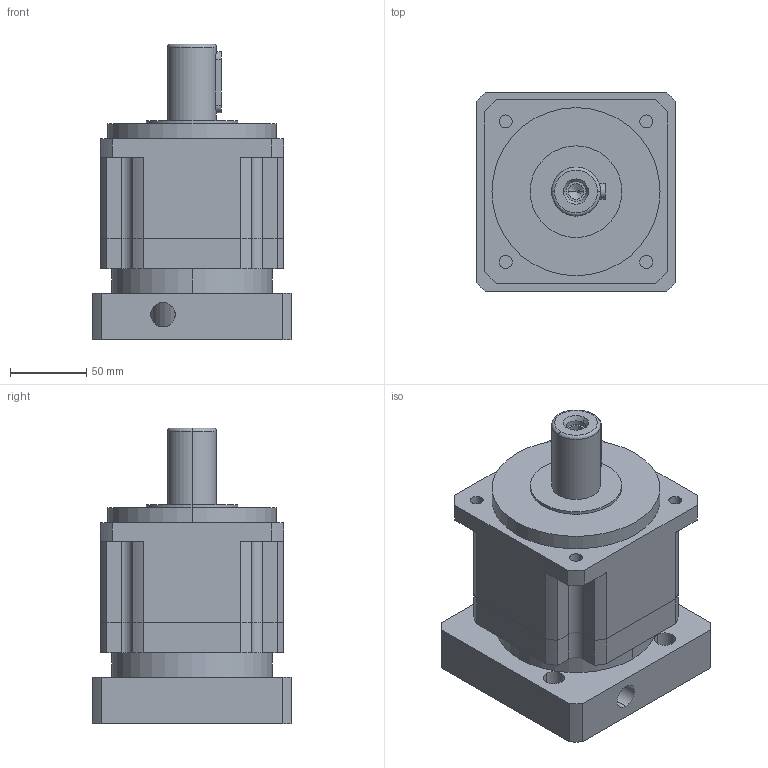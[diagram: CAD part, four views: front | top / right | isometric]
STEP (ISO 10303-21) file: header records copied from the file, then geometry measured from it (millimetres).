
FILE_DESCRIPTION (( 'STEP AP214' ), '1' );
FILE_NAME ('PX120-L1.STEP', '2020-01-06T03:20:04', ( '微软用户' ), ( '微软中国' ), 'SwSTEP 2.0', 'SolidWorks 2014', '' );
FILE_SCHEMA (( 'AUTOMOTIVE_DESIGN' ));
Length unit declared in the file: millimetre
Products named in the file (7): 囀鞠褒蹟佪-M8℅25; PX120-薊粣ん_LZ03; PX120-帣釱; PX120-本体齿圈; 粣創-6009 45x75x16; 邧埴瑩 10x8x40; PX120-L1
Assembly tree (6 placements, depth 2):
  PX120-L1
    PX120-本体齿圈
    PX120-薊粣ん_LZ03
    PX120-帣釱
    囀鞠褒蹟佪-M8℅25
    邧埴瑩 10x8x40
    粣創-6009 45x75x16
Bounding box: 130 x 130 x 193.5 mm (x, y, z)
Volume: 1660989.7 mm3; surface area: 210411.8 mm2
Topology: 6 solids, 6 shells, 450 faces, 1293 edges, 846 vertices
Faces by surface type: cylinder 165, plane 123, sphere 96, torus 50, cone 16
Entity records: 22255 total; most frequent: CARTESIAN_POINT 7190, ORIENTED_EDGE 2566, DIRECTION 2489, EDGE_CURVE 1283, AXIS2_PLACEMENT_3D 1072, VERTEX_POINT 846, CIRCLE 613, EDGE_LOOP 533
